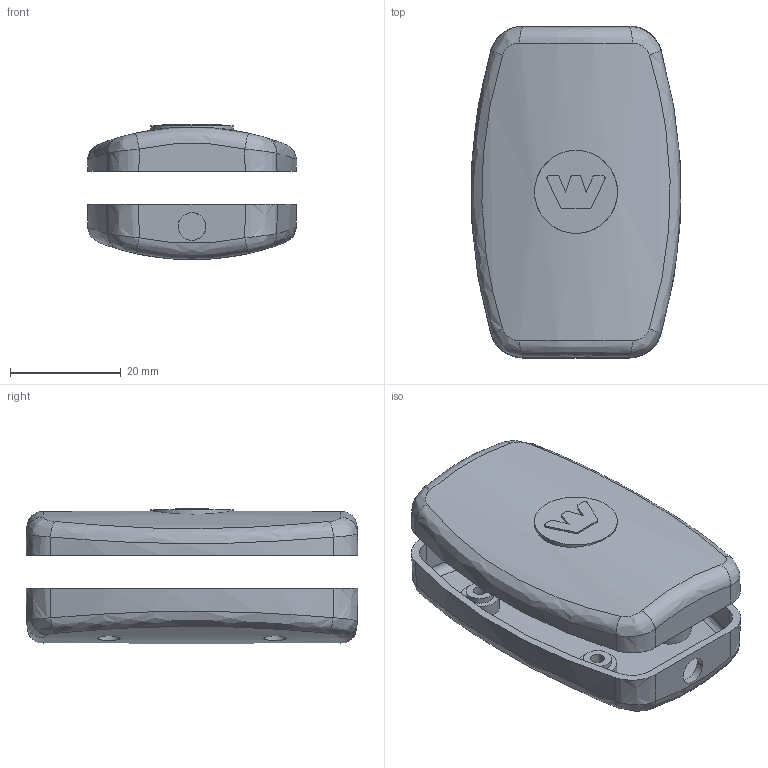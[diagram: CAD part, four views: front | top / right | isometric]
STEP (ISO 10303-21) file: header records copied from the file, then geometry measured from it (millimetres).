
FILE_DESCRIPTION(/* description */ (''),/* implementation_level */ '2;1');
FILE_NAME(/* name */ 'cp.stp',/* time_stamp */ '2019-04-21T15:49:27+08:00',/* author */ (''),/* organization */ (''),/* preprocessor_version */ 'ST-DEVELOPER v16',/* originating_system */ 'SIEMENS PLM Software NX 10.0',/* authorisation */ '');
FILE_SCHEMA (('AUTOMOTIVE_DESIGN { 1 0 10303 214 3 1 1 1 }'));
Length unit declared in the file: millimetre
Products named in the file (1): Admi15206EE0avk7
Bounding box: 37.86 x 60 x 24.5 mm (x, y, z)
Volume: 8989.5 mm3; surface area: 12885.2 mm2
Topology: 2 solids, 2 shells, 141 faces, 327 edges, 214 vertices
Faces by surface type: cylinder 46, bspline 44, plane 42, cone 4, torus 4, sphere 1
Full cylindrical faces by diameter (mm): 1.5 x4, 2.5 x4, 4 x8, 5 x5, 15 x1
Entity records: 6710 total; most frequent: CARTESIAN_POINT 3935, ORIENTED_EDGE 566, DIRECTION 480, EDGE_CURVE 283, AXIS2_PLACEMENT_3D 209, EDGE_LOOP 202, VERTEX_POINT 197, ADVANCED_FACE 141
